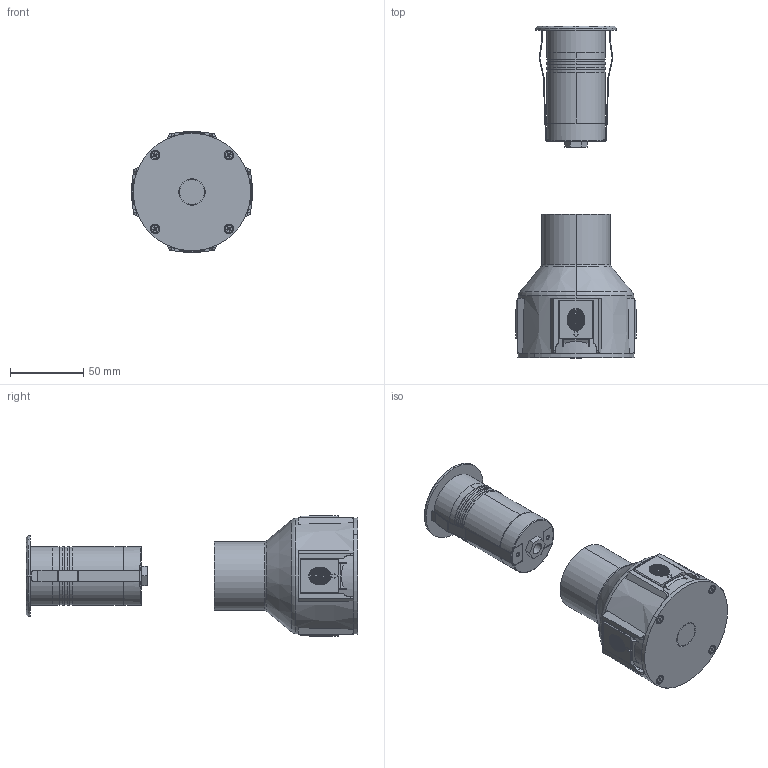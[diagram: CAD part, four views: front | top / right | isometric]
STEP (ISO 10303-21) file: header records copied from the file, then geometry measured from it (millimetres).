
FILE_DESCRIPTION((''),'2;1');
FILE_NAME('2W_ASM_101_ASM','2024-11-22T',('Administrator'),(''),'CREO PARAMETRIC BY PTC INC, 2014500','CREO PARAMETRIC BY PTC INC, 2014500','');
FILE_SCHEMA(('CONFIG_CONTROL_DESIGN'));
Length unit declared in the file: millimetre
Products named in the file (22): 2W__115; POWER-BOX_100; BACK-COVER_114; ASM0002_ASM_100_ASM; KAHUANG_103; MIANGAI_74; PRT0011_64; BOLI-2_50; M12_46; 2WR_39; PCB-002_19; PRT0001_13; AL-2A_____________13; CROSS_RECESSED_COUNTERSUNK_HEAD; KP-2A______-5973_13; KP-2A______-1119_ASM_13_ASM; _KP-2A____13; KP-2A__ASM_13_ASM; MSBR-4_12; MSBR-6_12; 00000_12; 2W_ASM_101_ASM
Assembly tree (27 placements, depth 4):
  2W_ASM_101_ASM
    2W__115
    POWER-BOX_100
    ASM0002_ASM_100_ASM
      BACK-COVER_114
    KAHUANG_103
    MIANGAI_74
    PRT0011_64
    BOLI-2_50
    M12_46
    2WR_39
    PCB-002_19
    KP-2A__ASM_13_ASM
      KP-2A______-1119_ASM_13_ASM
        PRT0001_13
        AL-2A_____________13  x4
        CROSS_RECESSED_COUNTERSUNK_HEAD  x4
        KP-2A______-5973_13
      _KP-2A____13
    MSBR-4_12
    MSBR-6_12
    00000_12
Bounding box: 81.93 x 226.15 x 81.93 mm (x, y, z)
Volume: 143438.5 mm3; surface area: 117322.8 mm2
Topology: 23 solids, 23 shells, 1038 faces, 2618 edges, 1720 vertices
Faces by surface type: cylinder 503, plane 410, cone 77, torus 19, extrusion 16, bspline 11, sphere 2
Entity records: 25325 total; most frequent: CARTESIAN_POINT 6289, DIRECTION 3993, ORIENTED_EDGE 3872, EDGE_CURVE 1936, AXIS2_PLACEMENT_3D 1537, VERTEX_POINT 1276, VECTOR 919, LINE 915
